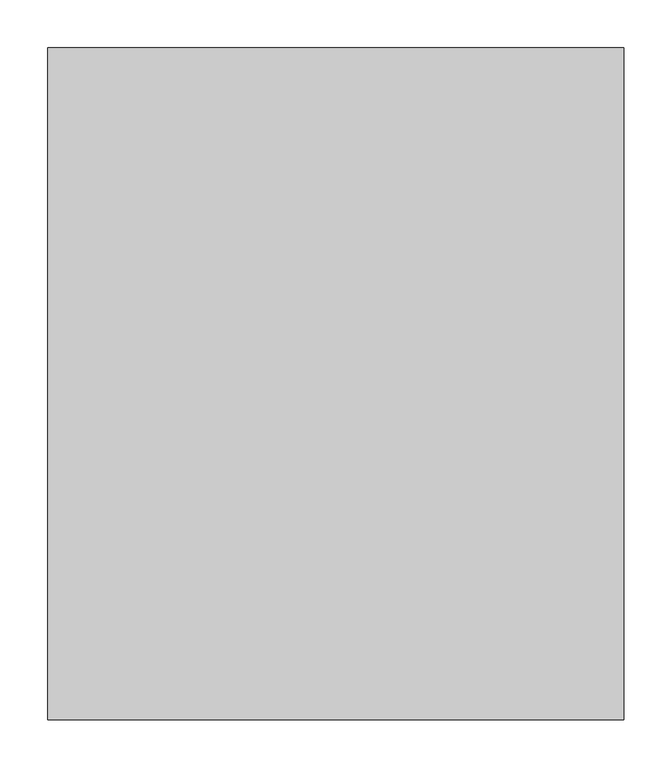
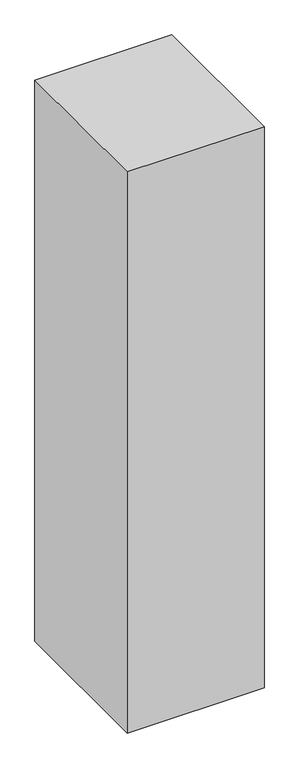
"""IFC4 building model written with IfcOpenShell, lengths in millimetres: furniture geometry, Fu_шкаф 1-с : Шкаф 1-створчатый."""

from ifc_helpers import new_model, si_unit, origin, origin_with_axes, place, context, project, spatial, polyline, outline, extrude, source, transform, mapped, element, save


def furniture_270331d1(model_context):
    return source(origin(), model_context, "Body", "SweptSolid", [
        extrude(outline(polyline([(600.0, 0.0), (0.0, 0.0), (0.0, 700.0), (600.0, 700.0), (600.0, 0.0)])), origin_with_axes(), (0.0, 0.0, 1.0), 2600.0),
    ])


if __name__ == "__main__":
    model = new_model("IFC4")
    model_context = context("Model", 3, world=origin())
    ifc_project = project(units=[si_unit("LENGTHUNIT", "METRE", prefix="MILLI")], contexts=[model_context])
    site = spatial("IfcSite", under=ifc_project)
    building = spatial("IfcBuilding", under=site)
    placement = place(None, origin())
    furniture_shape = furniture_270331d1(model_context)
    element("IfcFurniture", 1, ObjectType="Fu_шкаф 1-с : Шкаф 1-створчатый", at=placement, inside=building, context=model_context, shape_type="MappedRepresentation", body=[
        mapped(furniture_shape, transform((0.0, 0.0, 0.0), x_axis=(1.0, 0.0, 0.0), y_axis=(0.0, 1.0, 0.0), z_axis=(0.0, 0.0, 1.0))),
    ])
    save(model, "model.ifc")
